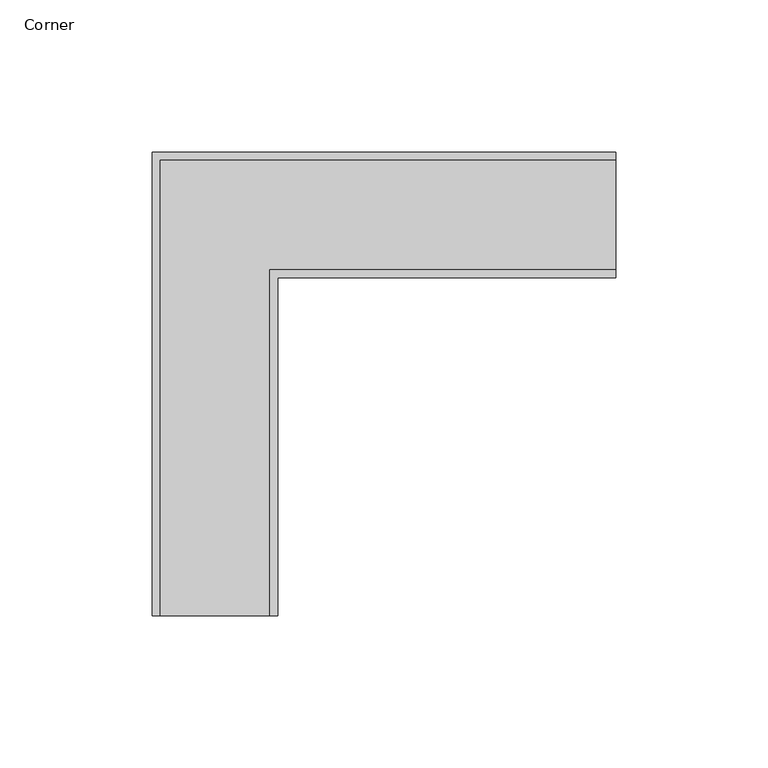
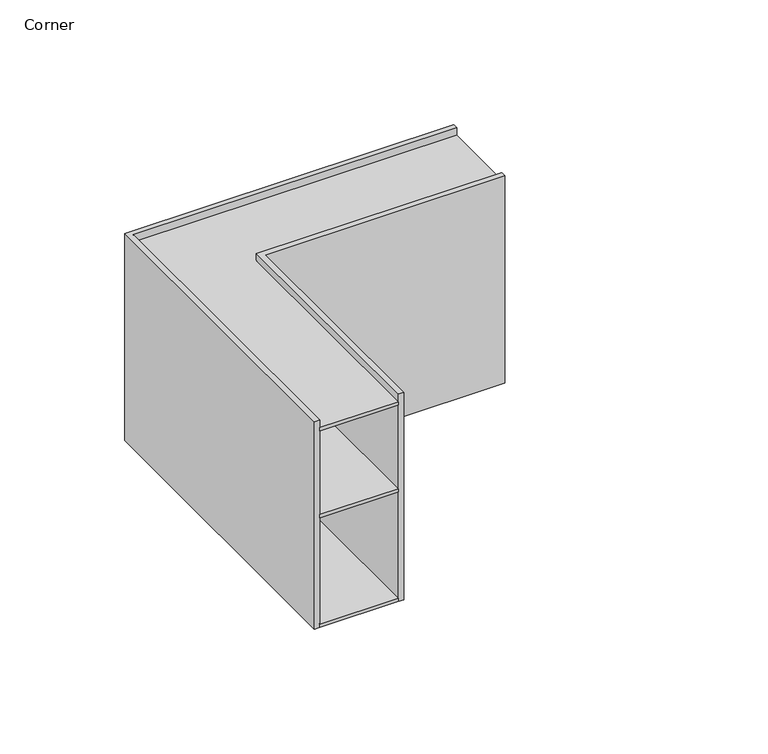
"""IFC4 building model written with IfcOpenShell, lengths in millimetres: light fixture geometry, Lighting-Ceiling-Betacalco-Block-Corner : Corner."""

from ifc_helpers import new_model, si_unit, frame, origin, origin_with_axes, place, context, project, spatial, polyline, circle_curve, outline, extrude, source, transform, mapped, element, save
from ifc_brep_helpers import plane_surface, cylinder_surface, advanced_brep


def corner_1d5955e4(model_context):
    return source(origin(), model_context, "Body", "SolidModel", [
        advanced_brep(
        [(0.0, 0.0, 0.0), (-1.2878851, 0.0, 0.0), (1.2878851, 0.0, 0.0), (1.2878851, 0.0, 1.5875), (-1.2878851, 0.0, 1.5875), (0.0, 0.0, 1.5875)],
        [
            (0, 1),
            (1, 2, circle_curve(frame((0.0, 0.0, 0.0), z_axis=(0.0, 0.0, -1.0), x_axis=(-1.0, 0.0, 0.0)), 1.2878851)),
            (2, 0),
            (2, 1, circle_curve(frame((0.0, 0.0, 0.0), z_axis=(0.0, 0.0, -1.0), x_axis=(-1.0, 0.0, 0.0)), 1.2878851)),
            (3, 4, circle_curve(frame((0.0, 0.0, 1.5875), z_axis=(0.0, 0.0, 1.0), x_axis=(-1.0, 0.0, 0.0)), 1.2878851)),
            (4, 5),
            (5, 3),
            (4, 3, circle_curve(frame((0.0, 0.0, 1.5875), z_axis=(0.0, 0.0, 1.0), x_axis=(-1.0, 0.0, 0.0)), 1.2878851)),
            (1, 4),
            (3, 2),
        ],
        [
            plane_surface(frame((0.0, 0.0, 0.0), z_axis=(0.0, 0.0, -1.0), x_axis=(-1.0, 0.0, 0.0))),
            plane_surface(frame((0.0, 0.0, 1.5875), z_axis=(0.0, 0.0, 1.0), x_axis=(-1.0, 0.0, 0.0))),
            cylinder_surface(frame((0.0, 0.0, 10.1320953), z_axis=(0.0, 0.0, -1.0), x_axis=(-1.0, 0.0, 0.0)), 1.2878851),
        ],
        [
            (0, [[1, 2, 3]]),
            (0, [[-3, 4, -1]]),
            (1, [[5, 6, 7]]),
            (1, [[8, -7, -6]]),
            (2, [[-2, 9, -5, 10]]),
            (2, [[-4, -10, -8, -9]]),
        ],
    ),
        extrude(outline(polyline([(131.7625, 18.0975), (131.7625, -18.0975), (18.0975, -18.0975), (18.0975, -131.7625), (-18.0975, -131.7625), (-18.0975, 18.0975), (131.7625, 18.0975)])), origin_with_axes(), (0.0, 0.0, 1.0), 1.5875),
        extrude(outline(polyline([(131.7625, 18.0975), (131.7625, -18.0975), (18.0975, -18.0975), (18.0975, -131.7625), (-18.0975, -131.7625), (-18.0975, 18.0975), (131.7625, 18.0975)])), frame((0.0, 0.0, 53.687913), z_axis=(0.0, 0.0, 1.0), x_axis=(1.0, 0.0, 0.0)), (0.0, 0.0, 1.0), 1.5875),
        extrude(outline(polyline([(131.7625, 18.0975), (131.7625, -18.0975), (18.0975, -18.0975), (18.0975, -131.7625), (-18.0975, -131.7625), (-18.0975, 18.0975), (131.7625, 18.0975)])), frame((0.0, 0.0, 96.3095588), z_axis=(0.0, 0.0, 1.0), x_axis=(1.0, 0.0, 0.0)), (0.0, 0.0, 1.0), 1.5875),
        extrude(outline(polyline([(131.7625, 20.6375), (131.7625, 18.0975), (-18.0975, 18.0975), (-18.0975, -131.7625), (-20.6375, -131.7625), (-20.6375, 20.6375), (131.7625, 20.6375)])), origin_with_axes(), (0.0, 0.0, 1.0), 101.6),
        extrude(outline(polyline([(131.7625, -18.0975), (131.7625, -20.6375), (20.6375, -20.6375), (20.6375, -131.7625), (18.0975, -131.7625), (18.0975, -18.0975), (131.7625, -18.0975)])), origin_with_axes(), (0.0, 0.0, 1.0), 101.6),
    ])


if __name__ == "__main__":
    model = new_model("IFC4")
    model_context = context("Model", 3, world=origin())
    ifc_project = project(units=[si_unit("LENGTHUNIT", "METRE", prefix="MILLI")], contexts=[model_context])
    site = spatial("IfcSite", under=ifc_project)
    building = spatial("IfcBuilding", under=site)
    placement = place(None, origin())
    corner_shape = corner_1d5955e4(model_context)
    element("IfcLightFixture", 1, ObjectType="Lighting-Ceiling-Betacalco-Block-Corner : Corner", at=placement, inside=building, context=model_context, shape_type="MappedRepresentation", body=[
        mapped(corner_shape, transform((0.0, 0.0, 0.0), x_axis=(1.0, 0.0, 0.0), y_axis=(0.0, 1.0, 0.0), z_axis=(0.0, 0.0, 1.0))),
    ])
    save(model, "model.ifc")
